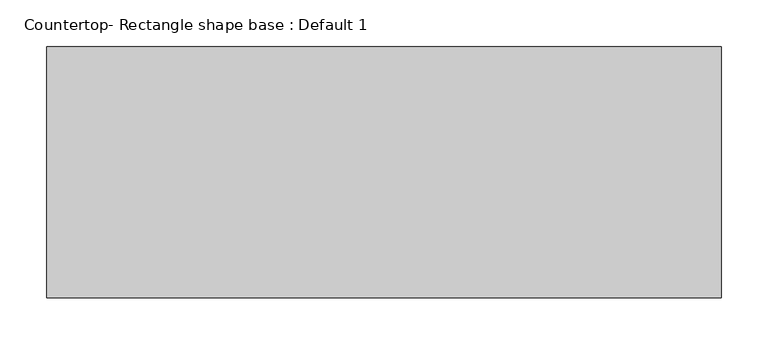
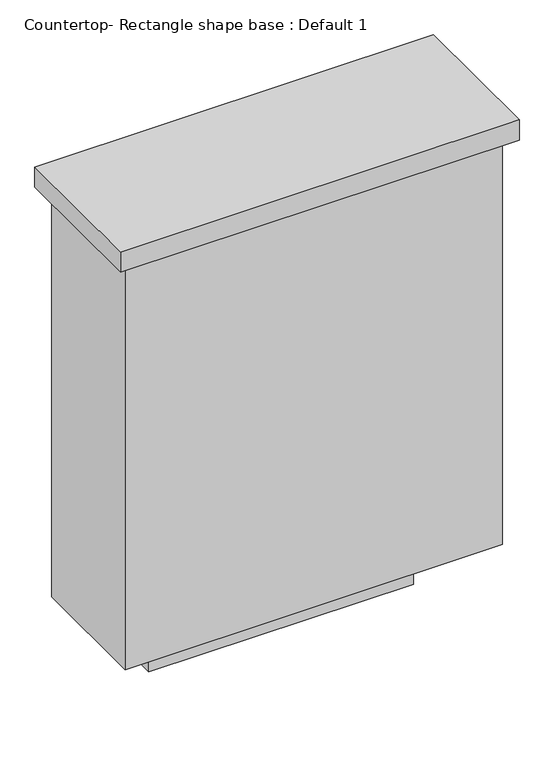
"""IFC4 building model written with IfcOpenShell, lengths in millimetres: proxy geometry, Countertop- Rectangle shape base : Default 1."""

from ifc_helpers import new_model, si_unit, frame, origin, origin_with_axes, place, context, project, spatial, polyline, outline, extrude, source, transform, mapped, element, save


def countertop_rectangle_shape_base_default_1_de570754(model_context):
    return source(origin(), model_context, "Body", "SweptSolid", [
        extrude(outline(polyline([(403.225, 247.65), (403.225, 514.35), (1120.775, 514.35), (1120.775, 247.65), (403.225, 247.65)])), frame((0.0, 0.0, 876.3), z_axis=(0.0, 0.0, 1.0), x_axis=(1.0, 0.0, 0.0)), (0.0, 0.0, 1.0), 38.1),
        extrude(outline(polyline([(1101.725, 495.3), (1101.725, 266.7), (422.275, 266.7), (422.275, 495.3), (1101.725, 495.3)])), frame((0.0, 0.0, 101.6), z_axis=(0.0, 0.0, 1.0), x_axis=(1.0, 0.0, 0.0)), (0.0, 0.0, 1.0), 774.7),
        extrude(outline(polyline([(1000.125, 393.7), (1000.125, 368.3), (523.875, 368.3), (523.875, 393.7), (1000.125, 393.7)])), origin_with_axes(), (0.0, 0.0, 1.0), 101.6),
    ])


if __name__ == "__main__":
    model = new_model("IFC4")
    model_context = context("Model", 3, world=origin())
    ifc_project = project(units=[si_unit("LENGTHUNIT", "METRE", prefix="MILLI")], contexts=[model_context])
    site = spatial("IfcSite", under=ifc_project)
    building = spatial("IfcBuilding", under=site)
    placement = place(None, origin())
    countertop_rectangle_shape_base_default_1_shape = countertop_rectangle_shape_base_default_1_de570754(model_context)
    element("IfcBuildingElementProxy", 1, Name="Countertop- Rectangle shape base : Default 1", ObjectType="Countertop- Rectangle shape base : Default 1", at=placement, inside=building, context=model_context, shape_type="MappedRepresentation", body=[
        mapped(countertop_rectangle_shape_base_default_1_shape, transform((0.0, 0.0, 0.0), x_axis=(1.0, 0.0, 0.0), y_axis=(0.0, 1.0, 0.0), z_axis=(0.0, 0.0, 1.0))),
    ])
    save(model, "model.ifc")
